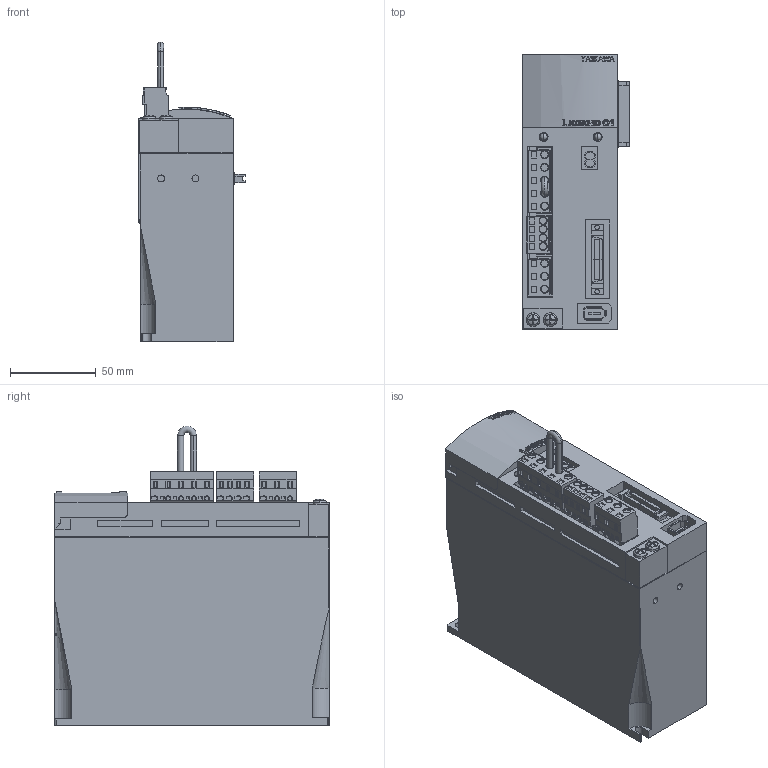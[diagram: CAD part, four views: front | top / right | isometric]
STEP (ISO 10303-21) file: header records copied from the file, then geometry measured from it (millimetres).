
FILE_DESCRIPTION (( 'STEP AP203' ), '1' );
FILE_NAME ('SGDG-01GT.STEP', '2007-08-31T18:41:08', ( 'Yaskawa' ), ( 'Yaskawa' ), 'SwSTEP 2.0', 'SolidWorks 2007', '' );
FILE_SCHEMA (( 'CONFIG_CONTROL_DESIGN' ));
Length unit declared in the file: millimetre
Products named in the file (13): SGDG-01 BODY; CN-1 Connector_F1; SGDG Face Cover-01; 5_Pole_731_M; 4_Pole_721_M; 4_Pole_721_F; 3_Pole_721_F; JIS B 1111  H  (Regular Thread - Metric) A M4 x 5 - H; Jumper2; SGDG-01GT; 3_Pole_731_M; 5_Pole_721_F; CN-1 Connector_F2
Assembly tree (13 placements, depth 2):
  SGDG-01GT
    CN-1 Connector_F2
    SGDG-01 BODY
    5_Pole_731_M
    4_Pole_721_M
    JIS B 1111  H  (Regular Thread - Metric) A M4 x 5 - H  x2
    3_Pole_731_M
    Jumper2
    3_Pole_721_F
    SGDG Face Cover-01
    CN-1 Connector_F1
    5_Pole_721_F
    4_Pole_721_F
Bounding box: 62 x 160 x 174.6 mm (x, y, z)
Volume: 42808.5 mm3; surface area: 116657 mm2
Topology: 12 solids, 19 shells, 1801 faces, 4724 edges, 3091 vertices
Faces by surface type: plane 1251, cylinder 240, bspline 168, cone 131, sphere 8, torus 3
Entity records: 66254 total; most frequent: CARTESIAN_POINT 22562, ORIENTED_EDGE 9164, DIRECTION 7961, EDGE_CURVE 4584, LINE 3301, VECTOR 3301, VERTEX_POINT 3012, AXIS2_PLACEMENT_3D 2330
